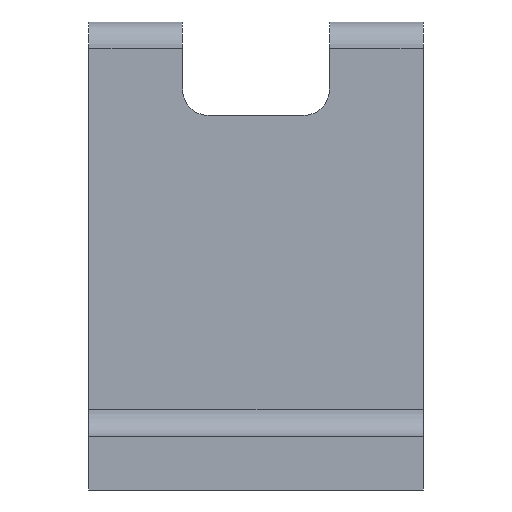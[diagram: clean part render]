
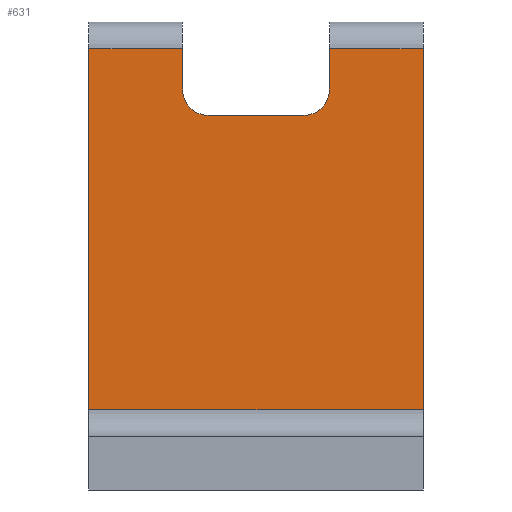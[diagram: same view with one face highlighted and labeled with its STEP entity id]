
A CAD part, left-side view. The second image highlights one B-rep face of the part: STEP entity #631.
In plain terms, the highlighted planar face has unit normal (-1, 0, 0).
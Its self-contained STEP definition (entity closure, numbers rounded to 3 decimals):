
#26=PLANE('',#697);
#55=FACE_OUTER_BOUND('',#88,.T.);
#88=EDGE_LOOP('',(#508,#509,#510,#511,#512,#513,#514,#515,#516,#517));
#110=LINE('',#919,#177);
#118=LINE('',#947,#185);
#143=LINE('',#1017,#210);
#147=LINE('',#1028,#214);
#149=LINE('',#1032,#216);
#150=LINE('',#1034,#217);
#151=LINE('',#1036,#218);
#152=LINE('',#1037,#219);
#177=VECTOR('',#733,10.);
#185=VECTOR('',#757,10.);
#210=VECTOR('',#824,10.);
#214=VECTOR('',#834,10.);
#216=VECTOR('',#838,10.);
#217=VECTOR('',#839,10.);
#218=VECTOR('',#840,10.);
#219=VECTOR('',#841,10.);
#241=CIRCLE('',#663,2.);
#243=CIRCLE('',#667,2.);
#267=VERTEX_POINT('',#909);
#268=VERTEX_POINT('',#911);
#270=VERTEX_POINT('',#917);
#272=VERTEX_POINT('',#923);
#282=VERTEX_POINT('',#945);
#306=VERTEX_POINT('',#1016);
#310=VERTEX_POINT('',#1026);
#311=VERTEX_POINT('',#1031);
#312=VERTEX_POINT('',#1033);
#313=VERTEX_POINT('',#1035);
#328=EDGE_CURVE('',#267,#268,#241,.T.);
#332=EDGE_CURVE('',#267,#270,#110,.T.);
#335=EDGE_CURVE('',#272,#270,#243,.T.);
#346=EDGE_CURVE('',#272,#282,#118,.T.);
#380=EDGE_CURVE('',#306,#268,#143,.T.);
#386=EDGE_CURVE('',#310,#282,#147,.T.);
#388=EDGE_CURVE('',#311,#310,#149,.T.);
#389=EDGE_CURVE('',#312,#311,#150,.T.);
#390=EDGE_CURVE('',#313,#312,#151,.T.);
#391=EDGE_CURVE('',#306,#313,#152,.T.);
#508=ORIENTED_EDGE('',*,*,#386,.F.);
#509=ORIENTED_EDGE('',*,*,#388,.F.);
#510=ORIENTED_EDGE('',*,*,#389,.F.);
#511=ORIENTED_EDGE('',*,*,#390,.F.);
#512=ORIENTED_EDGE('',*,*,#391,.F.);
#513=ORIENTED_EDGE('',*,*,#380,.T.);
#514=ORIENTED_EDGE('',*,*,#328,.F.);
#515=ORIENTED_EDGE('',*,*,#332,.T.);
#516=ORIENTED_EDGE('',*,*,#335,.F.);
#517=ORIENTED_EDGE('',*,*,#346,.T.);
#631=ADVANCED_FACE('',(#55),#26,.T.);
#663=AXIS2_PLACEMENT_3D('',#912,#726,#727);
#667=AXIS2_PLACEMENT_3D('',#925,#739,#740);
#697=AXIS2_PLACEMENT_3D('',#1030,#836,#837);
#726=DIRECTION('center_axis',(-1.,0.,0.));
#727=DIRECTION('ref_axis',(0.,-0.707,-0.707));
#733=DIRECTION('',(0.,1.,0.));
#739=DIRECTION('center_axis',(-1.,0.,0.));
#740=DIRECTION('ref_axis',(0.,0.707,-0.707));
#757=DIRECTION('',(0.,0.,1.));
#824=DIRECTION('',(0.,0.,-1.));
#834=DIRECTION('',(0.,-1.,0.));
#836=DIRECTION('center_axis',(-1.,0.,0.));
#837=DIRECTION('ref_axis',(0.,0.,1.));
#838=DIRECTION('',(0.,0.,1.));
#839=DIRECTION('',(0.,1.,0.));
#840=DIRECTION('',(0.,0.,-1.));
#841=DIRECTION('',(0.,-1.,0.));
#909=CARTESIAN_POINT('',(66.,9.,28.));
#911=CARTESIAN_POINT('',(66.,7.,30.));
#912=CARTESIAN_POINT('Origin',(66.,9.,30.));
#917=CARTESIAN_POINT('',(66.,16.,28.));
#919=CARTESIAN_POINT('',(66.,6.25,28.));
#923=CARTESIAN_POINT('',(66.,18.,30.));
#925=CARTESIAN_POINT('Origin',(66.,16.,30.));
#945=CARTESIAN_POINT('',(66.,18.,33.));
#947=CARTESIAN_POINT('',(66.,18.,17.75));
#1016=CARTESIAN_POINT('',(66.,7.,33.));
#1017=CARTESIAN_POINT('',(66.,7.,17.75));
#1026=CARTESIAN_POINT('',(66.,25.,33.));
#1028=CARTESIAN_POINT('',(66.,0.,33.));
#1030=CARTESIAN_POINT('Origin',(66.,0.,4.));
#1031=CARTESIAN_POINT('',(66.,25.,6.));
#1032=CARTESIAN_POINT('',(66.,25.,35.));
#1033=CARTESIAN_POINT('',(66.,0.,6.));
#1034=CARTESIAN_POINT('',(66.,0.,6.));
#1035=CARTESIAN_POINT('',(66.,0.,33.));
#1036=CARTESIAN_POINT('',(66.,0.,35.));
#1037=CARTESIAN_POINT('',(66.,0.,33.));
